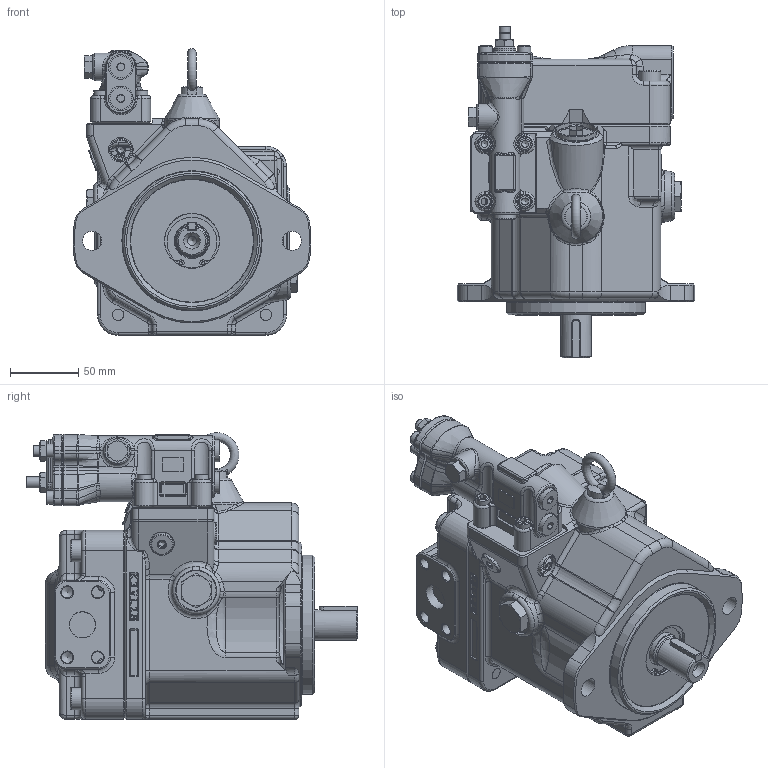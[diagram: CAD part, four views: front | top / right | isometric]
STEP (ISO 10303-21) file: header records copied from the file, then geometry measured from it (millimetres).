
FILE_DESCRIPTION(/* description */ (''),/* implementation_level */ '2;1');
FILE_NAME(/* name */ 'K3VL28_C-10RK#-L#A.stp',/* time_stamp */ '2026-05-12T10:36:10+01:00',/* author */ ('jhatcher'),/* organization */ (''),/* preprocessor_version */ 'ST-DEVELOPER v20',/* originating_system */ 'Autodesk Inventor 2024',/* authorisation */ '');
FILE_SCHEMA (('AUTOMOTIVE_DESIGN { 1 0 10303 214 3 1 1 }'));
Products named in the file (1): K3VL28_C-10RK#-L#A
Bounding box: 173.76 x 242 x 209.3 mm (x, y, z)
Volume: 3379285.3 mm3; surface area: 188700.4 mm2
Topology: 1 solids, 1 shells, 6753 faces, 18964 edges, 12344 vertices
Faces by surface type: plane 5552, bspline 453, cylinder 328, cone 250, torus 149, sphere 21
Full cylindrical faces by diameter (mm): 2.5 x2, 4 x2, 6.647 x1, 8 x2, 8.376 x10, 10 x8, 11 x8, 14 x2, 16 x8, 17.5 x4, 18 x4, 19 x1, 20 x1, 21 x2, 22.22 x1, 25 x1, 30 x3, 32 x1, 34 x1, 40 x2, 42.5 x1, 101.6 x1
Entity records: 231177 total; most frequent: CARTESIAN_POINT 54187, ORIENTED_EDGE 37832, DIRECTION 31656, EDGE_CURVE 18916, LINE 16278, VECTOR 16278, VERTEX_POINT 12344, AXIS2_PLACEMENT_3D 7689
